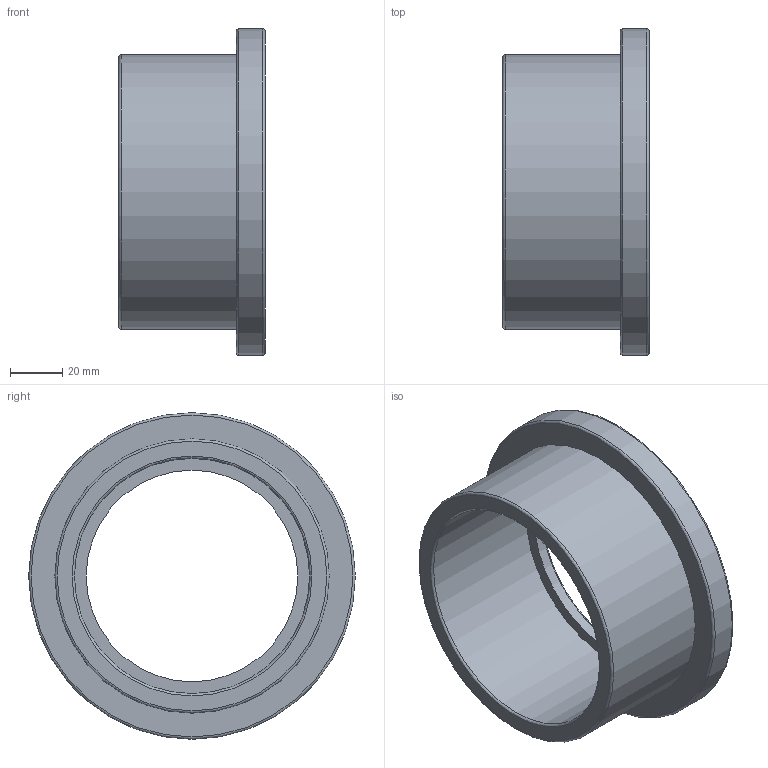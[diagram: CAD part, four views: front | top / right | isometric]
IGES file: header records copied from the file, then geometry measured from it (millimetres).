
Global section: file name: 055100090.ipt; native system: Autodesk Inventor 2015; preprocessor: unknown; author: KIM; date: 20180927.115428; units: millimetre
Bounding box: 56 x 125 x 125 mm (x, y, z)
Volume: 174146 mm3; surface area: 48455 mm2
Topology: 1 solids, 1 shells, 13 faces, 36 edges, 27 vertices
Faces by surface type: revolution 7, plane 4, cylinder 2
Full cylindrical faces by diameter (mm): 105 x1, 125 x1
